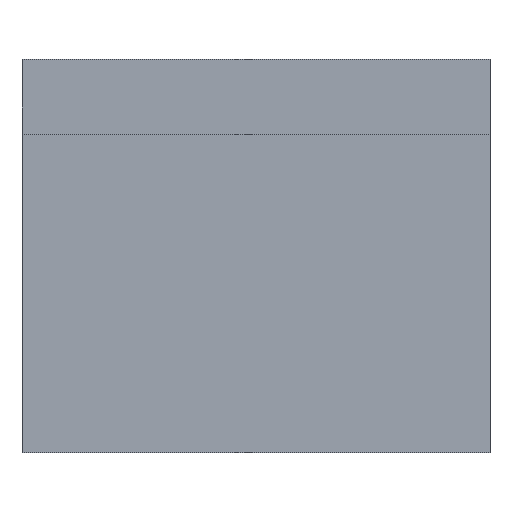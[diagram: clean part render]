
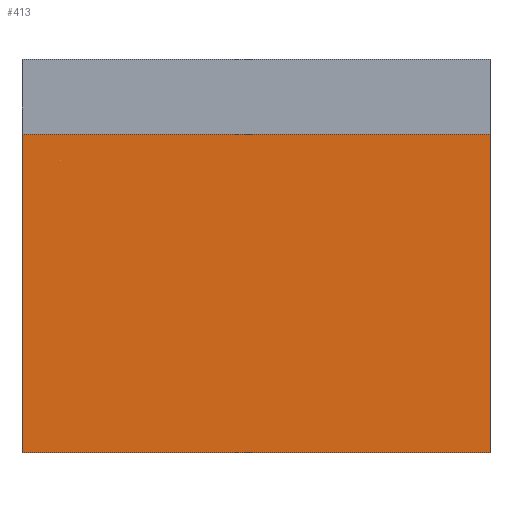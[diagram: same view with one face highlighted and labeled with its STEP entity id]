
A CAD part, front view. The second image highlights one B-rep face of the part: STEP entity #413.
In plain terms, the highlighted planar face has unit normal (0, -1, 0).
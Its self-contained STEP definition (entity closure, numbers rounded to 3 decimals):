
#6=DIRECTION('',(0.,0.,-1.));
#7=VECTOR('',#6,17.);
#8=CARTESIAN_POINT('',(-12.5,-7.,0.));
#9=LINE('',#8,#7);
#84=DIRECTION('',(1.,0.,0.));
#85=VECTOR('',#84,25.);
#86=CARTESIAN_POINT('',(-12.5,-7.,-17.));
#87=LINE('',#86,#85);
#98=DIRECTION('',(1.,0.,0.));
#99=VECTOR('',#98,25.);
#100=CARTESIAN_POINT('',(-12.5,-7.,0.));
#101=LINE('',#100,#99);
#138=DIRECTION('',(0.,0.,-1.));
#139=VECTOR('',#138,17.);
#140=CARTESIAN_POINT('',(12.5,-7.,0.));
#141=LINE('',#140,#139);
#179=CARTESIAN_POINT('',(-12.5,-7.,0.));
#181=VERTEX_POINT('',#179);
#182=CARTESIAN_POINT('',(-12.5,-7.,-17.));
#183=VERTEX_POINT('',#182);
#199=CARTESIAN_POINT('',(12.5,-7.,0.));
#201=VERTEX_POINT('',#199);
#202=CARTESIAN_POINT('',(12.5,-7.,-17.));
#203=VERTEX_POINT('',#202);
#401=CARTESIAN_POINT('',(-12.5,-7.,0.));
#402=DIRECTION('',(0.,-1.,0.));
#403=DIRECTION('',(0.,0.,-1.));
#404=AXIS2_PLACEMENT_3D('',#401,#402,#403);
#405=PLANE('',#404);
#406=ORIENTED_EDGE('',*,*,#241,.F.);
#407=ORIENTED_EDGE('',*,*,#272,.T.);
#409=ORIENTED_EDGE('',*,*,#408,.T.);
#410=ORIENTED_EDGE('',*,*,#387,.F.);
#411=EDGE_LOOP('',(#406,#407,#409,#410));
#412=FACE_OUTER_BOUND('',#411,.F.);
#241=EDGE_CURVE('',#181,#183,#9,.T.);
#272=EDGE_CURVE('',#181,#201,#101,.T.);
#387=EDGE_CURVE('',#183,#203,#87,.T.);
#408=EDGE_CURVE('',#201,#203,#141,.T.);
#413=ADVANCED_FACE('',(#412),#405,.T.);
